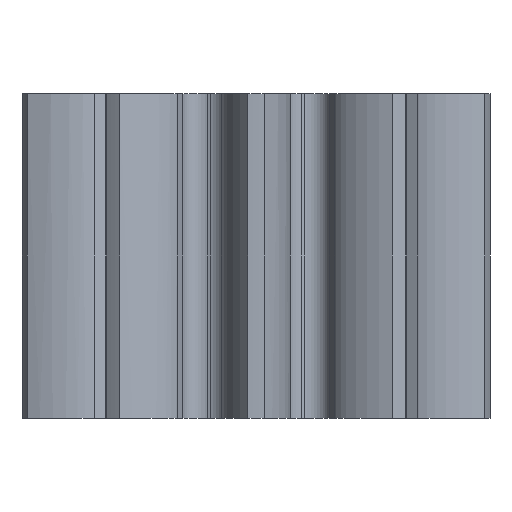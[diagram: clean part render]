
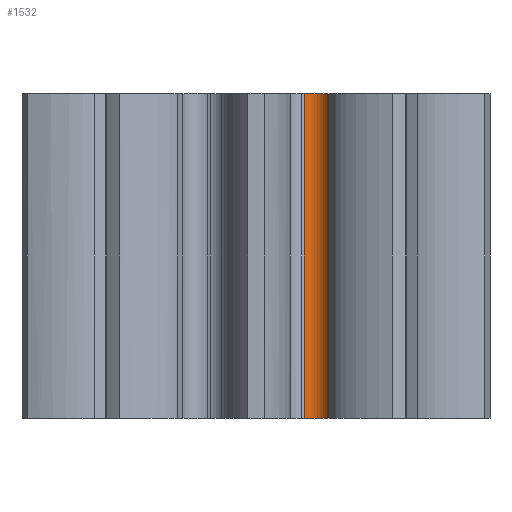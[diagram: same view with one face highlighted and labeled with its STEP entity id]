
A CAD part, left-side view. The second image highlights one B-rep face of the part: STEP entity #1532.
In plain terms, the highlighted cylindrical face has radius 0.5 mm (diameter 1 mm), a partial arc.
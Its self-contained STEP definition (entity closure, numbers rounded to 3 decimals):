
#128=FACE_OUTER_BOUND('',#210,.T.);
#210=EDGE_LOOP('',(#1169,#1170,#1171,#1172));
#319=LINE('',#5244,#439);
#320=LINE('',#5247,#440);
#439=VECTOR('',#1953,10.);
#440=VECTOR('',#1956,10.);
#522=CIRCLE('',#1625,0.5);
#558=CIRCLE('',#1677,0.5);
#623=VERTEX_POINT('',#3285);
#624=VERTEX_POINT('',#3287);
#692=VERTEX_POINT('',#5243);
#693=VERTEX_POINT('',#5245);
#790=EDGE_CURVE('',#624,#623,#522,.T.);
#878=EDGE_CURVE('',#623,#692,#319,.T.);
#879=EDGE_CURVE('',#692,#693,#558,.T.);
#880=EDGE_CURVE('',#693,#624,#320,.T.);
#1169=ORIENTED_EDGE('',*,*,#790,.T.);
#1170=ORIENTED_EDGE('',*,*,#878,.T.);
#1171=ORIENTED_EDGE('',*,*,#879,.T.);
#1172=ORIENTED_EDGE('',*,*,#880,.T.);
#1478=CYLINDRICAL_SURFACE('',#1676,0.5);
#1532=ADVANCED_FACE('',(#128),#1478,.F.);
#1625=AXIS2_PLACEMENT_3D('',#3288,#1813,#1814);
#1676=AXIS2_PLACEMENT_3D('',#5242,#1951,#1952);
#1677=AXIS2_PLACEMENT_3D('',#5246,#1954,#1955);
#1813=DIRECTION('center_axis',(0.,0.,-1.));
#1814=DIRECTION('ref_axis',(0.92,-0.391,0.));
#1951=DIRECTION('center_axis',(0.,0.,1.));
#1952=DIRECTION('ref_axis',(0.92,-0.391,0.));
#1953=DIRECTION('',(0.,0.,1.));
#1954=DIRECTION('center_axis',(0.,0.,1.));
#1955=DIRECTION('ref_axis',(0.92,-0.391,0.));
#1956=DIRECTION('',(0.,0.,-1.));
#3285=CARTESIAN_POINT('',(-3.815,-1.801,0.));
#3287=CARTESIAN_POINT('',(-3.555,-1.191,0.));
#3288=CARTESIAN_POINT('Origin',(-4.029,-1.349,0.));
#5242=CARTESIAN_POINT('Origin',(-4.029,-1.349,0.));
#5243=CARTESIAN_POINT('',(-3.815,-1.801,8.));
#5244=CARTESIAN_POINT('',(-3.815,-1.801,0.));
#5245=CARTESIAN_POINT('',(-3.555,-1.191,8.));
#5246=CARTESIAN_POINT('Origin',(-4.029,-1.349,8.));
#5247=CARTESIAN_POINT('',(-3.555,-1.191,0.));
